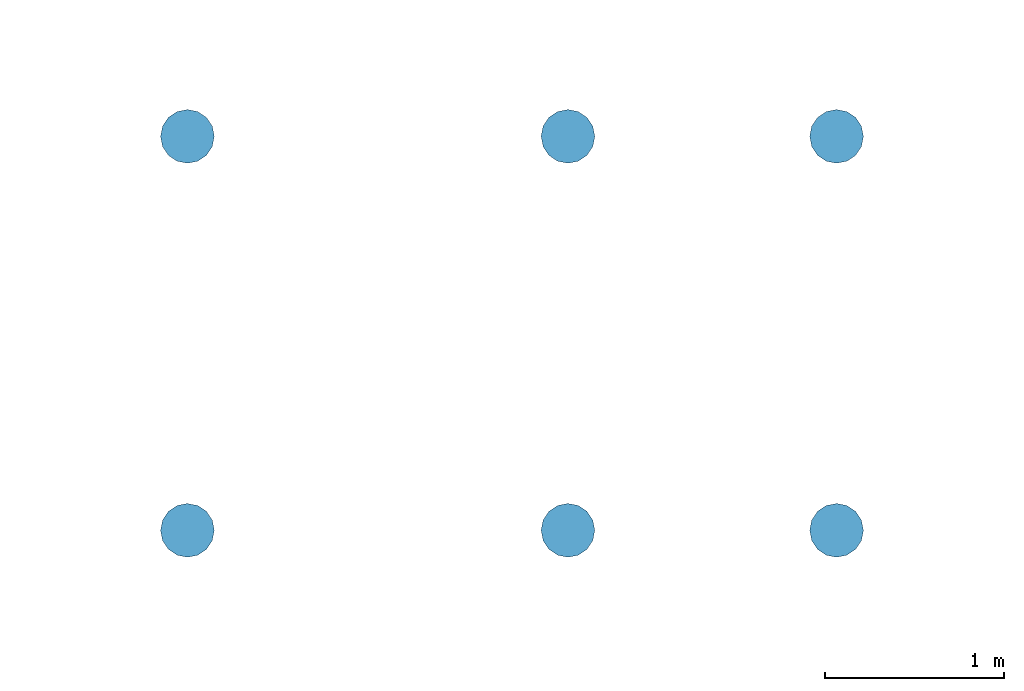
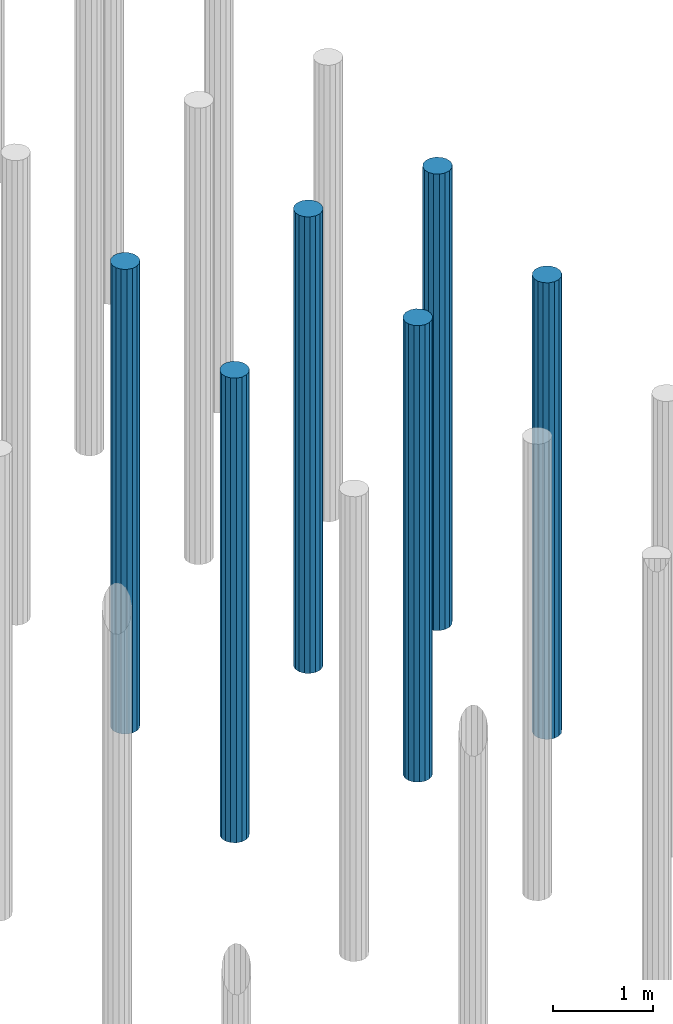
# One storey, part 67 of 102: 6 slabs.
"""IFC2X3 building model written with IfcOpenShell, lengths in millimetres."""

from ifc_helpers import new_model, entity, si_unit, converted_unit, derived_unit, money_unit, direction, frame, origin_with_axes, place, context, subcontext, project, spatial, faceted_brep, material, type_object, element, save


model = new_model("IFC2X3")

# Units and contexts
model_context = context("Model", 3, precision=0.01, world=origin_with_axes(), true_north=direction((0.0, 1.0)))
body_context = subcontext(model_context, "Body", "Model", "MODEL_VIEW")
ifc_project = project(units=[si_unit("LENGTHUNIT", "METRE", prefix="MILLI"), si_unit("AREAUNIT", "SQUARE_METRE"), si_unit("VOLUMEUNIT", "CUBIC_METRE"), converted_unit("PLANEANGLEUNIT", "DEGREE", entity("IfcPlaneAngleMeasure", 0.0174532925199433), si_unit("PLANEANGLEUNIT", "RADIAN"), dimensions=[0, 0, 0, 0, 0, 0, 0]), money_unit("EUR"), converted_unit("TIMEUNIT", "Year", entity("IfcTimeMeasure", 31557600.0), si_unit("TIMEUNIT", "SECOND"), dimensions=[0, 0, 1, 0, 0, 0, 0]), si_unit("MASSUNIT", "GRAM", prefix="KILO"), si_unit("THERMODYNAMICTEMPERATUREUNIT", "DEGREE_CELSIUS"), si_unit("LUMINOUSINTENSITYUNIT", "LUMEN"), si_unit("ENERGYUNIT", "JOULE", prefix="MEGA"), derived_unit("THERMALCONDUCTANCEUNIT", [(si_unit("POWERUNIT", "WATT"), 1), (si_unit("LENGTHUNIT", "METRE"), -1), (si_unit("THERMODYNAMICTEMPERATUREUNIT", "KELVIN"), -1)]), derived_unit("SPECIFICHEATCAPACITYUNIT", [(si_unit("ENERGYUNIT", "JOULE"), 1), (si_unit("MASSUNIT", "GRAM", prefix="KILO"), -1), (si_unit("THERMODYNAMICTEMPERATUREUNIT", "KELVIN"), -1)]), derived_unit("MASSDENSITYUNIT", [(si_unit("MASSUNIT", "GRAM", prefix="KILO"), 1), (si_unit("VOLUMEUNIT", "CUBIC_METRE"), -1)])], contexts=[model_context])

# Site, building, storey
site_placement = place(None, origin_with_axes())
site = spatial("IfcSite", under=ifc_project, at=site_placement, Name="Site", CompositionType="ELEMENT")
building_placement = place(site_placement, origin_with_axes())
building = spatial("IfcBuilding", under=site, at=building_placement, Name="Naam gebouw", CompositionType="ELEMENT")
storey_placement = place(building_placement, frame((0.0, 0.0, -1020.0), z_axis=(0.0, 0.0, 1.0), x_axis=(1.0, 0.0, 0.0)))
storey = spatial("IfcBuildingStorey", under=building, at=storey_placement, Name="-2 fundering", CompositionType="ELEMENT", Elevation=-1020.0)

# Slabs
ifc_material = material(Name="WSP_beton - ihwg beton")
slab_type_1 = type_object("IfcSlabType", Name="Slab 571", PredefinedType="NOTDEFINED")
slab_1_placement = place(storey_placement, frame((25299.99999999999, 30000.0, 979.9999952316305), z_axis=(0.0, 0.0, 1.0), x_axis=(1.0, 0.0, 0.0)))
element("IfcSlab", 1, at=slab_1_placement, inside=storey, type_object=slab_type_1, material=ifc_material, Name="17_WSP_FD_beton - fundatiepaal v21-2:ø300 (schroef)", PredefinedType="NOTDEFINED", context=body_context, shape_type="Brep", body=[
    faceted_brep([(97876.0, 52800.99999999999, -5980.0), (97874.0, 52800.99999999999, -5980.0), (97874.0, 52800.99999999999, -5978.000000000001), (97876.0, 52800.99999999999, -5978.000000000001), (97876.0, 52799.0, -5980.0), (97874.0, 52799.0, -5980.0), (97874.0, 52799.0, -5978.000000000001), (97876.0, 52799.0, -5978.000000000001)], [[[0, 1, 2, 3]], [[0, 4, 5, 1]], [[1, 5, 6, 2]], [[3, 2, 6, 7]], [[4, 0, 3, 7]], [[5, 4, 7, 6]]]),
    faceted_brep([(97725.0, 52800.0, -5980.0), (97736.41807012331, 52742.59748514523, -5980.0), (97736.41807012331, 52742.59748514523, -280.0000000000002), (97725.0, 52800.0, -280.0000000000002), (97736.41807012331, 52857.40251485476, -5980.0), (97768.93398282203, 52906.06601717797, -5980.0), (97817.59748514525, 52938.58192987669, -5980.0), (97875.0, 52949.99999999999, -5980.0), (97932.40251485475, 52938.58192987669, -5980.0), (97981.06601717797, 52906.06601717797, -5980.0), (98013.58192987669, 52857.40251485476, -5980.0), (98025.0, 52800.0, -5980.0), (98013.58192987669, 52742.59748514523, -5980.0), (97981.06601717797, 52693.93398282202, -5980.0), (97932.40251485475, 52661.41807012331, -5980.0), (97875.0, 52650.0, -5980.0), (97817.59748514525, 52661.41807012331, -5980.0), (97768.93398282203, 52693.93398282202, -5980.0), (97768.93398282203, 52693.93398282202, -280.0000000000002), (97817.59748514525, 52661.41807012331, -280.0000000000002), (97875.0, 52650.0, -280.0000000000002), (97932.40251485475, 52661.41807012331, -280.0000000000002), (97981.06601717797, 52693.93398282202, -280.0000000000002), (98013.58192987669, 52742.59748514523, -280.0000000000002), (98025.0, 52800.0, -280.0000000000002), (98013.58192987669, 52857.40251485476, -280.0000000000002), (97981.06601717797, 52906.06601717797, -280.0000000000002), (97932.40251485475, 52938.58192987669, -280.0000000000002), (97875.0, 52949.99999999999, -280.0000000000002), (97817.59748514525, 52938.58192987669, -280.0000000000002), (97768.93398282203, 52906.06601717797, -280.0000000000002), (97736.41807012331, 52857.40251485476, -280.0000000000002)], [[[0, 1, 2, 3]], [[0, 4, 5, 6, 7, 8, 9, 10, 11, 12, 13, 14, 15, 16, 17, 1]], [[1, 17, 18, 2]], [[3, 2, 18, 19, 20, 21, 22, 23, 24, 25, 26, 27, 28, 29, 30, 31]], [[4, 0, 3, 31]], [[5, 4, 31, 30]], [[6, 5, 30, 29]], [[7, 6, 29, 28]], [[8, 7, 28, 27]], [[9, 8, 27, 26]], [[10, 9, 26, 25]], [[11, 10, 25, 24]], [[12, 11, 24, 23]], [[13, 12, 23, 22]], [[14, 13, 22, 21]], [[15, 14, 21, 20]], [[16, 15, 20, 19]], [[17, 16, 19, 18]]]),
])
slab_type_2 = type_object("IfcSlabType", Name="Slab 589", PredefinedType="NOTDEFINED")
slab_2_placement = place(storey_placement, frame((25299.99999999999, 30000.0, 979.9999952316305), z_axis=(0.0, 0.0, 1.0), x_axis=(1.0, 0.0, 0.0)))
element("IfcSlab", 2, at=slab_2_placement, inside=storey, type_object=slab_type_2, material=ifc_material, Name="17_WSP_FD_beton - fundatiepaal v21-2:ø300 (schroef)", PredefinedType="NOTDEFINED", context=body_context, shape_type="Brep", body=[
    faceted_brep([(97876.0, 55001.0, -5980.0), (97874.0, 55001.0, -5980.0), (97874.0, 55001.0, -5978.000000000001), (97876.0, 55001.0, -5978.000000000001), (97876.0, 54999.0, -5980.0), (97874.0, 54999.0, -5980.0), (97874.0, 54999.0, -5978.000000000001), (97876.0, 54999.0, -5978.000000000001)], [[[0, 1, 2, 3]], [[0, 4, 5, 1]], [[1, 5, 6, 2]], [[3, 2, 6, 7]], [[4, 0, 3, 7]], [[5, 4, 7, 6]]]),
    faceted_brep([(97725.0, 55000.0, -5980.0), (97736.41807012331, 54942.59748514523, -5980.0), (97736.41807012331, 54942.59748514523, -280.0000000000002), (97725.0, 55000.0, -280.0000000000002), (97736.41807012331, 55057.40251485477, -5980.0), (97768.93398282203, 55106.06601717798, -5980.0), (97817.59748514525, 55138.58192987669, -5980.0), (97875.0, 55150.0, -5980.0), (97932.40251485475, 55138.58192987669, -5980.0), (97981.06601717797, 55106.06601717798, -5980.0), (98013.58192987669, 55057.40251485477, -5980.0), (98025.0, 55000.0, -5980.0), (98013.58192987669, 54942.59748514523, -5980.0), (97981.06601717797, 54893.93398282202, -5980.0), (97932.40251485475, 54861.41807012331, -5980.0), (97875.0, 54850.0, -5980.0), (97817.59748514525, 54861.41807012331, -5980.0), (97768.93398282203, 54893.93398282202, -5980.0), (97768.93398282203, 54893.93398282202, -280.0000000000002), (97817.59748514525, 54861.41807012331, -280.0000000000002), (97875.0, 54850.0, -280.0000000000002), (97932.40251485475, 54861.41807012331, -280.0000000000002), (97981.06601717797, 54893.93398282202, -280.0000000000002), (98013.58192987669, 54942.59748514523, -280.0000000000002), (98025.0, 55000.0, -280.0000000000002), (98013.58192987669, 55057.40251485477, -280.0000000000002), (97981.06601717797, 55106.06601717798, -280.0000000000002), (97932.40251485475, 55138.58192987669, -280.0000000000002), (97875.0, 55150.0, -280.0000000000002), (97817.59748514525, 55138.58192987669, -280.0000000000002), (97768.93398282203, 55106.06601717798, -280.0000000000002), (97736.41807012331, 55057.40251485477, -280.0000000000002)], [[[0, 1, 2, 3]], [[0, 4, 5, 6, 7, 8, 9, 10, 11, 12, 13, 14, 15, 16, 17, 1]], [[1, 17, 18, 2]], [[3, 2, 18, 19, 20, 21, 22, 23, 24, 25, 26, 27, 28, 29, 30, 31]], [[4, 0, 3, 31]], [[5, 4, 31, 30]], [[6, 5, 30, 29]], [[7, 6, 29, 28]], [[8, 7, 28, 27]], [[9, 8, 27, 26]], [[10, 9, 26, 25]], [[11, 10, 25, 24]], [[12, 11, 24, 23]], [[13, 12, 23, 22]], [[14, 13, 22, 21]], [[15, 14, 21, 20]], [[16, 15, 20, 19]], [[17, 16, 19, 18]]]),
])
slab_type_3 = type_object("IfcSlabType", Name="Slab 735", PredefinedType="NOTDEFINED")
slab_3_placement = place(storey_placement, frame((25299.99999999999, 30000.0, 979.9999952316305), z_axis=(0.0, 0.0, 1.0), x_axis=(1.0, 0.0, 0.0)))
element("IfcSlab", 3, at=slab_3_placement, inside=storey, type_object=slab_type_3, material=ifc_material, Name="17_WSP_FD_beton - fundatiepaal v21-2:ø300 (schroef)", PredefinedType="NOTDEFINED", context=body_context, shape_type="Brep", body=[
    faceted_brep([(101501.0, 52800.99999999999, -5980.0), (101499.0, 52800.99999999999, -5980.0), (101499.0, 52800.99999999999, -5978.000000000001), (101501.0, 52800.99999999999, -5978.000000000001), (101501.0, 52799.0, -5980.0), (101499.0, 52799.0, -5980.0), (101499.0, 52799.0, -5978.000000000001), (101501.0, 52799.0, -5978.000000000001)], [[[0, 1, 2, 3]], [[0, 4, 5, 1]], [[1, 5, 6, 2]], [[3, 2, 6, 7]], [[4, 0, 3, 7]], [[5, 4, 7, 6]]]),
    faceted_brep([(101350.0, 52800.0, -5980.0), (101361.4180701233, 52742.59748514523, -5980.0), (101361.4180701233, 52742.59748514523, -380.0000000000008), (101350.0, 52800.0, -380.0000000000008), (101361.4180701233, 52857.40251485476, -5980.0), (101393.933982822, 52906.06601717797, -5980.0), (101442.5974851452, 52938.58192987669, -5980.0), (101500.0, 52949.99999999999, -5980.0), (101557.4025148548, 52938.58192987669, -5980.0), (101606.066017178, 52906.06601717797, -5980.0), (101638.5819298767, 52857.40251485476, -5980.0), (101650.0, 52800.0, -5980.0), (101638.5819298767, 52742.59748514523, -5980.0), (101606.066017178, 52693.93398282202, -5980.0), (101557.4025148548, 52661.41807012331, -5980.0), (101500.0, 52650.0, -5980.0), (101442.5974851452, 52661.41807012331, -5980.0), (101393.933982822, 52693.93398282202, -5980.0), (101393.933982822, 52693.93398282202, -380.0000000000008), (101442.5974851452, 52661.41807012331, -380.0000000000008), (101500.0, 52650.0, -380.0000000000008), (101557.4025148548, 52661.41807012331, -380.0000000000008), (101606.066017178, 52693.93398282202, -380.0000000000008), (101638.5819298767, 52742.59748514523, -380.0000000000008), (101650.0, 52800.0, -380.0000000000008), (101638.5819298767, 52857.40251485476, -380.0000000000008), (101606.066017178, 52906.06601717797, -380.0000000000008), (101557.4025148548, 52938.58192987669, -380.0000000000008), (101500.0, 52949.99999999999, -380.0000000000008), (101442.5974851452, 52938.58192987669, -380.0000000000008), (101393.933982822, 52906.06601717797, -380.0000000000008), (101361.4180701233, 52857.40251485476, -380.0000000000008)], [[[0, 1, 2, 3]], [[0, 4, 5, 6, 7, 8, 9, 10, 11, 12, 13, 14, 15, 16, 17, 1]], [[1, 17, 18, 2]], [[3, 2, 18, 19, 20, 21, 22, 23, 24, 25, 26, 27, 28, 29, 30, 31]], [[4, 0, 3, 31]], [[5, 4, 31, 30]], [[6, 5, 30, 29]], [[7, 6, 29, 28]], [[8, 7, 28, 27]], [[9, 8, 27, 26]], [[10, 9, 26, 25]], [[11, 10, 25, 24]], [[12, 11, 24, 23]], [[13, 12, 23, 22]], [[14, 13, 22, 21]], [[15, 14, 21, 20]], [[16, 15, 20, 19]], [[17, 16, 19, 18]]]),
])
slab_type_4 = type_object("IfcSlabType", Name="Slab 752", PredefinedType="NOTDEFINED")
slab_4_placement = place(storey_placement, frame((25299.99999999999, 30000.0, 979.9999952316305), z_axis=(0.0, 0.0, 1.0), x_axis=(1.0, 0.0, 0.0)))
element("IfcSlab", 4, at=slab_4_placement, inside=storey, type_object=slab_type_4, material=ifc_material, Name="17_WSP_FD_beton - fundatiepaal v21-2:ø300 (schroef)", PredefinedType="NOTDEFINED", context=body_context, shape_type="Brep", body=[
    faceted_brep([(100001.0, 55001.0, -5980.0), (99999.0, 55001.0, -5980.0), (99999.0, 55001.0, -5978.000000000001), (100001.0, 55001.0, -5978.000000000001), (100001.0, 54999.0, -5980.0), (99999.0, 54999.0, -5980.0), (99999.0, 54999.0, -5978.000000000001), (100001.0, 54999.0, -5978.000000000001)], [[[0, 1, 2, 3]], [[0, 4, 5, 1]], [[1, 5, 6, 2]], [[3, 2, 6, 7]], [[4, 0, 3, 7]], [[5, 4, 7, 6]]]),
    faceted_brep([(99850.0, 55000.0, -5980.0), (99861.41807012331, 54942.59748514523, -5980.0), (99861.41807012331, 54942.59748514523, -380.0000000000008), (99850.0, 55000.0, -380.0000000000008), (99861.41807012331, 55057.40251485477, -5980.0), (99893.93398282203, 55106.06601717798, -5980.0), (99942.59748514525, 55138.58192987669, -5980.0), (100000.0, 55150.0, -5980.0), (100057.4025148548, 55138.58192987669, -5980.0), (100106.066017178, 55106.06601717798, -5980.0), (100138.5819298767, 55057.40251485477, -5980.0), (100150.0, 55000.0, -5980.0), (100138.5819298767, 54942.59748514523, -5980.0), (100106.066017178, 54893.93398282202, -5980.0), (100057.4025148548, 54861.41807012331, -5980.0), (100000.0, 54850.0, -5980.0), (99942.59748514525, 54861.41807012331, -5980.0), (99893.93398282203, 54893.93398282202, -5980.0), (99893.93398282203, 54893.93398282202, -380.0000000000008), (99942.59748514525, 54861.41807012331, -380.0000000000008), (100000.0, 54850.0, -380.0000000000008), (100057.4025148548, 54861.41807012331, -380.0000000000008), (100106.066017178, 54893.93398282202, -380.0000000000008), (100138.5819298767, 54942.59748514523, -380.0000000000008), (100150.0, 55000.0, -380.0000000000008), (100138.5819298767, 55057.40251485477, -380.0000000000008), (100106.066017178, 55106.06601717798, -380.0000000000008), (100057.4025148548, 55138.58192987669, -380.0000000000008), (100000.0, 55150.0, -380.0000000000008), (99942.59748514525, 55138.58192987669, -380.0000000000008), (99893.93398282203, 55106.06601717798, -380.0000000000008), (99861.41807012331, 55057.40251485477, -380.0000000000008)], [[[0, 1, 2, 3]], [[0, 4, 5, 6, 7, 8, 9, 10, 11, 12, 13, 14, 15, 16, 17, 1]], [[1, 17, 18, 2]], [[3, 2, 18, 19, 20, 21, 22, 23, 24, 25, 26, 27, 28, 29, 30, 31]], [[4, 0, 3, 31]], [[5, 4, 31, 30]], [[6, 5, 30, 29]], [[7, 6, 29, 28]], [[8, 7, 28, 27]], [[9, 8, 27, 26]], [[10, 9, 26, 25]], [[11, 10, 25, 24]], [[12, 11, 24, 23]], [[13, 12, 23, 22]], [[14, 13, 22, 21]], [[15, 14, 21, 20]], [[16, 15, 20, 19]], [[17, 16, 19, 18]]]),
])
slab_type_5 = type_object("IfcSlabType", Name="Slab 753", PredefinedType="NOTDEFINED")
slab_5_placement = place(storey_placement, frame((25299.99999999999, 30000.0, 979.9999952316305), z_axis=(0.0, 0.0, 1.0), x_axis=(1.0, 0.0, 0.0)))
element("IfcSlab", 5, at=slab_5_placement, inside=storey, type_object=slab_type_5, material=ifc_material, Name="17_WSP_FD_beton - fundatiepaal v21-2:ø300 (schroef)", PredefinedType="NOTDEFINED", context=body_context, shape_type="Brep", body=[
    faceted_brep([(100001.0, 52800.99999999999, -5980.0), (99999.0, 52800.99999999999, -5980.0), (99999.0, 52800.99999999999, -5978.000000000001), (100001.0, 52800.99999999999, -5978.000000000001), (100001.0, 52799.0, -5980.0), (99999.0, 52799.0, -5980.0), (99999.0, 52799.0, -5978.000000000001), (100001.0, 52799.0, -5978.000000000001)], [[[0, 1, 2, 3]], [[0, 4, 5, 1]], [[1, 5, 6, 2]], [[3, 2, 6, 7]], [[4, 0, 3, 7]], [[5, 4, 7, 6]]]),
    faceted_brep([(99850.0, 52800.0, -5980.0), (99861.41807012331, 52742.59748514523, -5980.0), (99861.41807012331, 52742.59748514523, -380.0000000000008), (99850.0, 52800.0, -380.0000000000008), (99861.41807012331, 52857.40251485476, -5980.0), (99893.93398282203, 52906.06601717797, -5980.0), (99942.59748514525, 52938.58192987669, -5980.0), (100000.0, 52949.99999999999, -5980.0), (100057.4025148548, 52938.58192987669, -5980.0), (100106.066017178, 52906.06601717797, -5980.0), (100138.5819298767, 52857.40251485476, -5980.0), (100150.0, 52800.0, -5980.0), (100138.5819298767, 52742.59748514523, -5980.0), (100106.066017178, 52693.93398282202, -5980.0), (100057.4025148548, 52661.41807012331, -5980.0), (100000.0, 52650.0, -5980.0), (99942.59748514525, 52661.41807012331, -5980.0), (99893.93398282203, 52693.93398282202, -5980.0), (99893.93398282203, 52693.93398282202, -380.0000000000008), (99942.59748514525, 52661.41807012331, -380.0000000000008), (100000.0, 52650.0, -380.0000000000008), (100057.4025148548, 52661.41807012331, -380.0000000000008), (100106.066017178, 52693.93398282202, -380.0000000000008), (100138.5819298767, 52742.59748514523, -380.0000000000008), (100150.0, 52800.0, -380.0000000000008), (100138.5819298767, 52857.40251485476, -380.0000000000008), (100106.066017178, 52906.06601717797, -380.0000000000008), (100057.4025148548, 52938.58192987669, -380.0000000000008), (100000.0, 52949.99999999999, -380.0000000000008), (99942.59748514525, 52938.58192987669, -380.0000000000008), (99893.93398282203, 52906.06601717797, -380.0000000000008), (99861.41807012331, 52857.40251485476, -380.0000000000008)], [[[0, 1, 2, 3]], [[0, 4, 5, 6, 7, 8, 9, 10, 11, 12, 13, 14, 15, 16, 17, 1]], [[1, 17, 18, 2]], [[3, 2, 18, 19, 20, 21, 22, 23, 24, 25, 26, 27, 28, 29, 30, 31]], [[4, 0, 3, 31]], [[5, 4, 31, 30]], [[6, 5, 30, 29]], [[7, 6, 29, 28]], [[8, 7, 28, 27]], [[9, 8, 27, 26]], [[10, 9, 26, 25]], [[11, 10, 25, 24]], [[12, 11, 24, 23]], [[13, 12, 23, 22]], [[14, 13, 22, 21]], [[15, 14, 21, 20]], [[16, 15, 20, 19]], [[17, 16, 19, 18]]]),
])
slab_type_6 = type_object("IfcSlabType", Name="Slab 765", PredefinedType="NOTDEFINED")
slab_6_placement = place(storey_placement, frame((25299.99999999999, 30000.0, 979.9999952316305), z_axis=(0.0, 0.0, 1.0), x_axis=(1.0, 0.0, 0.0)))
element("IfcSlab", 6, at=slab_6_placement, inside=storey, type_object=slab_type_6, material=ifc_material, Name="17_WSP_FD_beton - fundatiepaal v21-2:ø300 (schroef)", PredefinedType="NOTDEFINED", context=body_context, shape_type="Brep", body=[
    faceted_brep([(101501.0, 55001.0, -5980.0), (101499.0, 55001.0, -5980.0), (101499.0, 55001.0, -5978.000000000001), (101501.0, 55001.0, -5978.000000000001), (101501.0, 54999.0, -5980.0), (101499.0, 54999.0, -5980.0), (101499.0, 54999.0, -5978.000000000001), (101501.0, 54999.0, -5978.000000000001)], [[[0, 1, 2, 3]], [[0, 4, 5, 1]], [[1, 5, 6, 2]], [[3, 2, 6, 7]], [[4, 0, 3, 7]], [[5, 4, 7, 6]]]),
    faceted_brep([(101350.0, 55000.0, -5980.0), (101361.4180701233, 54942.59748514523, -5980.0), (101361.4180701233, 54942.59748514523, -380.0000000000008), (101350.0, 55000.0, -380.0000000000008), (101361.4180701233, 55057.40251485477, -5980.0), (101393.933982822, 55106.06601717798, -5980.0), (101442.5974851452, 55138.58192987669, -5980.0), (101500.0, 55150.0, -5980.0), (101557.4025148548, 55138.58192987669, -5980.0), (101606.066017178, 55106.06601717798, -5980.0), (101638.5819298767, 55057.40251485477, -5980.0), (101650.0, 55000.0, -5980.0), (101638.5819298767, 54942.59748514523, -5980.0), (101606.066017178, 54893.93398282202, -5980.0), (101557.4025148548, 54861.41807012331, -5980.0), (101500.0, 54850.0, -5980.0), (101442.5974851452, 54861.41807012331, -5980.0), (101393.933982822, 54893.93398282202, -5980.0), (101393.933982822, 54893.93398282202, -380.0000000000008), (101442.5974851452, 54861.41807012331, -380.0000000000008), (101500.0, 54850.0, -380.0000000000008), (101557.4025148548, 54861.41807012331, -380.0000000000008), (101606.066017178, 54893.93398282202, -380.0000000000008), (101638.5819298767, 54942.59748514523, -380.0000000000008), (101650.0, 55000.0, -380.0000000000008), (101638.5819298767, 55057.40251485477, -380.0000000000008), (101606.066017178, 55106.06601717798, -380.0000000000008), (101557.4025148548, 55138.58192987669, -380.0000000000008), (101500.0, 55150.0, -380.0000000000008), (101442.5974851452, 55138.58192987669, -380.0000000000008), (101393.933982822, 55106.06601717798, -380.0000000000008), (101361.4180701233, 55057.40251485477, -380.0000000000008)], [[[0, 1, 2, 3]], [[0, 4, 5, 6, 7, 8, 9, 10, 11, 12, 13, 14, 15, 16, 17, 1]], [[1, 17, 18, 2]], [[3, 2, 18, 19, 20, 21, 22, 23, 24, 25, 26, 27, 28, 29, 30, 31]], [[4, 0, 3, 31]], [[5, 4, 31, 30]], [[6, 5, 30, 29]], [[7, 6, 29, 28]], [[8, 7, 28, 27]], [[9, 8, 27, 26]], [[10, 9, 26, 25]], [[11, 10, 25, 24]], [[12, 11, 24, 23]], [[13, 12, 23, 22]], [[14, 13, 22, 21]], [[15, 14, 21, 20]], [[16, 15, 20, 19]], [[17, 16, 19, 18]]]),
])

save(model, "model.ifc")
